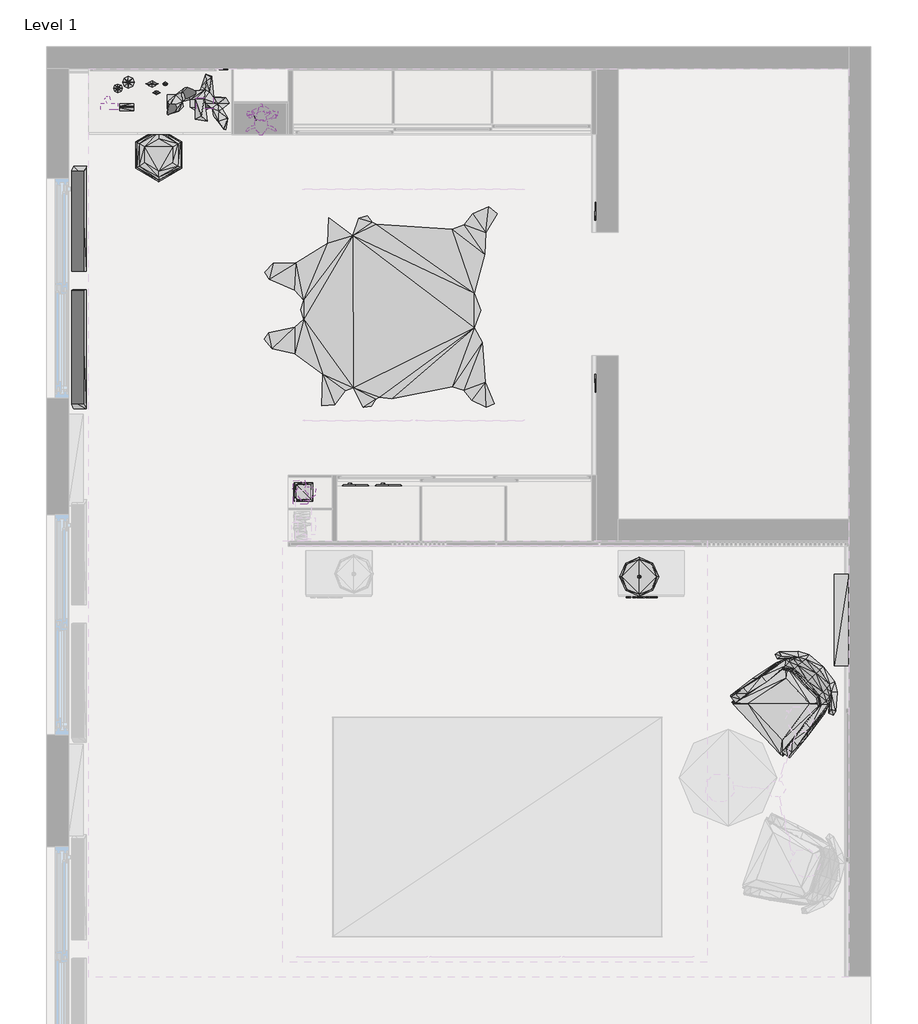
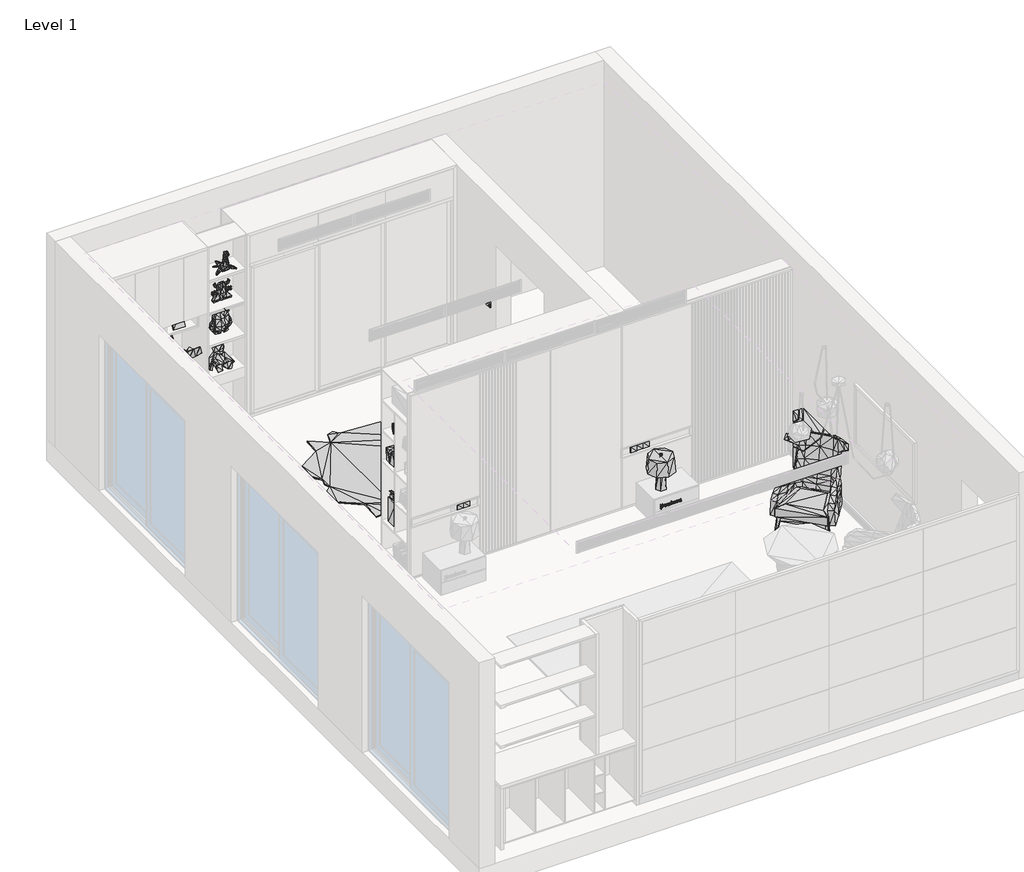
# One storey, part 3 of 3: 41 geographic elements, 1 proxy.
"""IFC4 building model written with IfcOpenShell, lengths in millimetres."""

from ifc_helpers import new_model, si_unit, frame, origin, place, context, project, spatial, polyline, outline, extrude, transform, mapped, element, save
from components import geographic_element_4468c854, geographic_element_3b733e86, geographic_element_47339385, geographic_element_347349cb, geographic_element_06c4260c, geographic_element_9074d599, geographic_element_8ae85c0b, geographic_element_082f936b, geographic_element_e62986f0, enscape_assetdefinition_armchair_14_enscape_assetdefinition_c5dd8c47, enscape_assetdefinition_books_10_1_enscape_assetdefinition_3c0ef03e, enscape_assetdefinition_creme_tube_02_1_enscape_099a7565, enscape_assetdefinition_creme_tube_03_1_enscape_79aa0b1a, enscape_assetdefinition_creme_tube_1_enscape_assetdefinition_85d8d02e, enscape_assetdefinition_curtain_09_1_enscape_assetdefinition_daeb34b5, enscape_assetdefinition_heater_1_enscape_assetdefinition_d009f5ff, enscape_assetdefinition_heater_enscape_assetdefinition_ceba5591, enscape_assetdefinition_interior_plant_90_1_enscape_fa028396, enscape_assetdefinition_light_switch_02_1_enscape_37d4c2cf, enscape_assetdefinition_photo_frame_1_enscape_5837e575, enscape_assetdefinition_picture_frame_portrait_1_enscape_684294eb, enscape_assetdefinition_pouf_11_1_enscape_assetdefinition_35691895, enscape_assetdefinition_power_socket_1_enscape_57b8c8f3, enscape_assetdefinition_storage_box_03_enscape_1ab63e7b, enscape_assetdefinition_storage_box_06_1_enscape_998c8187, enscape_assetdefinition_storage_glass_02_1_enscape_ec1b0890, enscape_assetdefinition_storage_glass_1_enscape_05d8ce10, enscape_assetdefinition_table_lamp_enscape_assetdefinition_93c3381e, enscape_assetdefinition_trolley_case_02_enscape_eeb5b25c, enscape_assetdefinition_trolley_case_enscape_assetdefinition_97d0b9c1

model = new_model("IFC4")

# Units and contexts
model_context = context("Model", 3, world=origin())
ifc_project = project(units=[si_unit("LENGTHUNIT", "METRE", prefix="MILLI")], contexts=[model_context])

# Site, building, storey
site = spatial("IfcSite", under=ifc_project)
building = spatial("IfcBuilding", under=site)
storey = spatial("IfcBuildingStorey", under=building, Name="Level 1", Elevation=0.0)

# Proxy
placement = place(None, origin())
element("IfcBuildingElementProxy", 1, Name="600mm Arial", ObjectType="600mm Arial", at=placement, inside=storey, context=model_context, shape_type="SweptSolid", body=[
    extrude(outline(polyline([(223.461173, 483.4438142), (256.5468074, 483.4438142), (266.3688705, 473.5316404), (261.5329312, 467.0136353), (257.8684306, 461.8773271), (256.4717152, 457.4919411), (261.3376914, 455.0739715), (263.7706795, 452.5809096), (265.0472473, 450.0127555), (267.5703461, 444.8914657), (262.9897203, 449.457073), (260.7144259, 450.636021), (258.5592791, 451.7248582), (245.2529367, 451.5596553), (245.2529367, 447.5046752), (242.594672, 444.9965948), (236.4971833, 444.9965948), (239.5459276, 447.9402101), (239.5459276, 451.7248582), (221.7340518, 451.7248582), (215.125936, 441.7225738), (218.4299939, 451.7248582), (199.3265318, 451.7248582), (205.0335409, 457.4919411), (253.7533766, 457.4919411), (257.6731908, 463.3341162), (207.5716581, 464.3854074), (218.6252337, 464.3854074), (218.6252337, 468.4704245), (216.1922456, 473.5016035), (221.1483324, 478.6829671), (223.461173, 483.4438142)]), holes=[polyline([(249.9837469, 477.6767313), (247.8811646, 473.2913453), (247.8811646, 468.7707934), (249.9837469, 464.3854074), (258.6644082, 464.3854074), (260.7369536, 467.1938566), (260.7369536, 470.8133019), (254.0988009, 477.6767313), (249.9837469, 477.6767313)]), polyline([(236.7224599, 477.6767313), (238.7349316, 473.5616773), (238.7349316, 468.5004613), (236.7224599, 464.3854074), (249.3529722, 464.3854074), (247.3855559, 468.5004613), (247.3855559, 473.5616773), (249.3529722, 477.6767313), (236.7224599, 477.6767313)]), polyline([(222.5150109, 477.6767313), (223.6714312, 474.0948321), (224.6626486, 471.0385786), (224.6626486, 464.2202045), (235.4158552, 464.2202045), (237.5184375, 468.6656642), (237.5184375, 473.2312715), (235.4158552, 477.6767313), (222.5150109, 477.6767313)])]), frame((0.0, 1232.5768874, 0.0), z_axis=(0.0, 1.0, 0.0), x_axis=(0.0, 0.0, 1.0)), (0.0, 0.0, 1.0), 10.0),
    extrude(outline(polyline([(222.4399187, 529.1899978), (222.4399187, 525.7808108), (224.4373719, 523.8133945), (242.459506, 523.8133945), (244.9675863, 526.3364933), (250.2690974, 520.929853), (247.7309802, 518.2415514), (246.4318847, 515.7635079), (245.4181396, 511.7986384), (247.7309802, 507.2931049), (250.2690974, 504.6348401), (244.9675863, 499.2582368), (238.0591016, 506.2267953), (235.6936965, 503.8463718), (233.7488078, 501.8564278), (231.2782736, 500.6098969), (228.9729423, 499.4534766), (224.0769292, 499.4534766), (219.2259715, 501.9165016), (216.6878542, 507.0978651), (221.4487013, 511.8587122), (223.5062283, 518.0463116), (221.7340518, 518.0463116), (216.6277805, 523.2877489), (222.4399187, 529.1899978)]), holes=[polyline([(224.5274826, 518.0463116), (222.3347896, 511.5433249), (222.3347896, 509.4407426), (224.5274826, 505.0253197), (228.8978501, 502.8626636), (233.2081438, 502.8626636), (237.3231977, 506.9777176), (233.7938632, 511.9938782), (242.1441186, 503.5685306), (242.1441186, 507.0377914), (243.1803913, 510.1916648), (244.0965165, 512.729782), (242.3093215, 518.0463116), (224.5274826, 518.0463116)])]), frame((0.0, 1232.5768874, 0.0), z_axis=(0.0, 1.0, 0.0), x_axis=(0.0, 0.0, 1.0)), (0.0, 0.0, 1.0), 10.0),
    extrude(outline(polyline([(245.4782134, 571.4819391), (245.4782134, 567.0514978), (247.4756666, 563.1467021), (250.2690974, 560.0529024), (247.7309802, 557.439693), (246.9199841, 555.9528669), (245.4181396, 553.0242701), (244.149081, 549.4874263), (243.3606127, 546.8817261), (245.1628261, 546.8817261), (250.2690974, 541.6402888), (244.4269223, 535.7380399), (244.4269223, 539.1322084), (242.459506, 541.1146432), (224.5575194, 541.1146432), (221.3886275, 534.731804), (221.3886275, 539.1922822), (219.3911744, 543.2172255), (216.6277805, 546.3560805), (222.1095129, 551.9429421), (224.6326117, 546.8817261), (242.4745244, 546.8817261), (244.6371805, 553.189473), (244.6371805, 555.2319815), (242.5345982, 559.3770724), (221.7791071, 559.3770724), (216.6277805, 564.5884728), (222.4399187, 570.5207586), (222.4399187, 567.1115716), (224.4373719, 565.1441553), (242.3393584, 565.1441553), (245.4782134, 571.4819391)])), frame((0.0, 1232.5768874, 0.0), z_axis=(0.0, 1.0, 0.0), x_axis=(0.0, 0.0, 1.0)), (0.0, 0.0, 1.0), 10.0),
    extrude(outline(polyline([(221.3435722, 607.4360966), (245.2228998, 607.4360966), (259.1600169, 593.5890902), (266.6091656, 591.0960283), (261.2475807, 583.0761787), (249.7584703, 594.4901969), (247.791054, 590.6154381), (246.1840803, 585.8395726), (245.4031212, 583.4065845), (224.5274826, 583.4065845), (221.3435722, 577.0237453), (221.3435722, 583.797064), (219.1058239, 588.2124869), (216.6277805, 590.6755119), (218.0470235, 593.5440349), (219.1058239, 595.6165803), (221.3435722, 602.3748806), (221.3435722, 607.4360966)]), holes=[polyline([(222.1996236, 601.6690137), (220.0670044, 595.5414881), (222.2596974, 593.4689427), (223.528756, 591.0735007), (224.4674088, 589.1736674), (244.7423096, 589.1736674), (248.9775111, 595.3612667), (242.5045613, 601.6690137), (222.1996236, 601.6690137)])]), frame((0.0, 1232.5768874, 0.0), z_axis=(0.0, 1.0, 0.0), x_axis=(0.0, 0.0, 1.0)), (0.0, 0.0, 1.0), 10.0),
    extrude(outline(polyline([(245.5232687, 653.1822802), (245.5232687, 646.4239799), (247.791054, 642.038594), (249.0450941, 640.7695354), (250.2690974, 639.5455321), (248.8198174, 636.6920275), (247.791054, 634.6345006), (245.5232687, 627.8762003), (245.5232687, 622.8149843), (224.5274826, 622.8149843), (221.3435722, 616.4321451), (221.3435722, 623.2054639), (219.1058239, 627.6208867), (216.6277805, 630.0839117), (218.0470235, 632.9524347), (219.1058239, 635.0249801), (221.3435722, 641.7832804), (221.3435722, 646.8444964), (242.3693953, 646.8444964), (245.5232687, 653.1822802)]), holes=[polyline([(222.1996236, 641.0774135), (220.0670044, 634.9498879), (222.2596974, 632.8773425), (223.528756, 630.4819005), (224.4674088, 628.5820672), (244.6071436, 628.5820672), (244.5470698, 636.7521013), (243.2780112, 639.1475433), (242.3693953, 641.0774135), (222.1996236, 641.0774135)])]), frame((0.0, 1232.5768874, 0.0), z_axis=(0.0, 1.0, 0.0), x_axis=(0.0, 0.0, 1.0)), (0.0, 0.0, 1.0), 10.0),
    extrude(outline(polyline([(245.4782134, 691.1789462), (245.4782134, 686.7485049), (247.7309802, 682.2730083), (248.9850203, 680.9964404), (250.2090236, 679.7799464), (245.6133794, 670.4835289), (250.2690974, 665.6325711), (244.4269223, 659.7303222), (244.4269223, 663.1244908), (242.459506, 665.1069256), (224.5575194, 665.1069256), (221.3886275, 658.7240864), (221.3886275, 663.1845646), (219.3911744, 667.2095079), (216.6277805, 670.3483629), (220.2922811, 675.1843022), (222.4399187, 679.5546697), (222.4399187, 675.1242284), (224.5575194, 670.8740085), (244.6071436, 670.8740085), (246.6045968, 674.8538964), (242.1140817, 679.4195037), (242.1140817, 684.4056275), (245.4782134, 691.1789462)])), frame((0.0, 1232.5768874, 0.0), z_axis=(0.0, 1.0, 0.0), x_axis=(0.0, 0.0, 1.0)), (0.0, 0.0, 1.0), 10.0),
    extrude(outline(polyline([(222.4399187, 725.2708165), (222.4399187, 721.8616294), (224.4373719, 719.8942131), (242.459506, 719.8942131), (244.9675863, 722.4173119), (250.2690974, 717.0106717), (247.7309802, 714.32237), (246.4318847, 711.8443266), (245.4181396, 707.8794571), (247.7309802, 703.3739236), (250.2690974, 700.7156588), (244.9675863, 695.3390555), (238.0591016, 702.307614), (235.6936965, 699.9271904), (233.7488078, 697.9372465), (231.2782736, 696.6907155), (228.9729423, 695.5342953), (224.0769292, 695.5342953), (219.2259715, 697.9973202), (216.6878542, 703.1786838), (221.4487013, 707.9395309), (223.5062283, 714.1271302), (221.7340518, 714.1271302), (216.6277805, 719.3685676), (222.4399187, 725.2708165)]), holes=[polyline([(224.5274826, 714.1271302), (222.3347896, 707.6241435), (222.3347896, 705.5215612), (224.5274826, 701.1061384), (228.8978501, 698.9434823), (233.2081438, 698.9434823), (237.3231977, 703.0585362), (233.7938632, 708.0746969), (242.1441186, 699.6493492), (242.1441186, 703.11861), (243.1803913, 706.2724835), (244.0965165, 708.8106007), (242.3093215, 714.1271302), (224.5274826, 714.1271302)])]), frame((0.0, 1232.5768874, 0.0), z_axis=(0.0, 1.0, 0.0), x_axis=(0.0, 0.0, 1.0)), (0.0, 0.0, 1.0), 10.0),
])

# Geographic elements
geographic_element_shape = geographic_element_4468c854(model_context)
element("IfcGeographicElement", 2, ObjectType="Enscape AssetDefinition - Calendar 1 : Enscape AssetDefinition - Calendar 1", at=placement, inside=storey, context=model_context, shape_type="MappedRepresentation", body=[
    mapped(geographic_element_shape, transform((-4102.4476811, 5693.6776397, 740.0), x_axis=(1.0, 0.0, 0.0), y_axis=(0.0, 1.0, 0.0), z_axis=(0.0, 0.0, 1.0))),
])
geographic_element_2_shape = geographic_element_3b733e86(model_context)
element("IfcGeographicElement", 3, ObjectType="Enscape AssetDefinition - Candle Lantern 1 : Enscape AssetDefinition - Candle Lantern 1", at=placement, inside=storey, context=model_context, shape_type="MappedRepresentation", body=[
    mapped(geographic_element_2_shape, transform((-2495.6250979, 2193.2154548, 463.9), x_axis=(0.0, 1.0, 0.0), y_axis=(-1.0, 0.0, 0.0), z_axis=(0.0, 0.0, 1.0))),
])
geographic_element_3_shape = geographic_element_47339385(model_context)
element("IfcGeographicElement", 4, ObjectType="Enscape AssetDefinition - Candle Tray 03 1 : Enscape AssetDefinition - Candle Tray 03 1", at=placement, inside=storey, context=model_context, shape_type="MappedRepresentation", body=[
    mapped(geographic_element_3_shape, transform((-2477.3095983, 2195.249955, 1735.5), x_axis=(1.0, 0.0, 0.0), y_axis=(0.0, 1.0, 0.0), z_axis=(0.0, 0.0, 1.0))),
])
geographic_element_4_shape = geographic_element_347349cb(model_context)
element("IfcGeographicElement", 5, ObjectType="Enscape AssetDefinition - Garbage Can 06 1 : Enscape AssetDefinition - Garbage Can 06 1", at=placement, inside=storey, context=model_context, shape_type="MappedRepresentation", body=[
    mapped(geographic_element_4_shape, transform((-3432.9742609, 5624.0958895, 0.0), x_axis=(1.0, 0.0, 0.0), y_axis=(0.0, 1.0, 0.0), z_axis=(0.0, 0.0, 1.0))),
])
geographic_element_5_shape = geographic_element_06c4260c(model_context)
element("IfcGeographicElement", 6, ObjectType="Enscape AssetDefinition - Plushy 1 : Enscape AssetDefinition - Plushy 1", at=placement, inside=storey, context=model_context, shape_type="MappedRepresentation", body=[
    mapped(geographic_element_5_shape, transform((-2892.57126, 5588.6947964, 740.0), x_axis=(1.0, 0.0, 0.0), y_axis=(0.0, 1.0, 0.0), z_axis=(0.0, 0.0, 1.0))),
])
geographic_element_6_shape = geographic_element_9074d599(model_context)
element("IfcGeographicElement", 7, ObjectType="Enscape AssetDefinition - Plushy 02 1 : Enscape AssetDefinition - Plushy 02 1", at=placement, inside=storey, context=model_context, shape_type="MappedRepresentation", body=[
    mapped(geographic_element_6_shape, transform((-2867.57126, 5614.5768874, 1656.3), x_axis=(1.0, 0.0, 0.0), y_axis=(0.0, 1.0, 0.0), z_axis=(0.0, 0.0, 1.0))),
])
geographic_element_7_shape = geographic_element_8ae85c0b(model_context)
element("IfcGeographicElement", 8, ObjectType="Enscape AssetDefinition - Plushy 03 1 : Enscape AssetDefinition - Plushy 03 1", at=placement, inside=storey, context=model_context, shape_type="MappedRepresentation", body=[
    mapped(geographic_element_7_shape, transform((-2867.57126, 5634.5768874, 1201.0), x_axis=(1.0, 0.0, 0.0), y_axis=(0.0, 1.0, 0.0), z_axis=(0.0, 0.0, 1.0))),
])
geographic_element_8_shape = geographic_element_082f936b(model_context)
element("IfcGeographicElement", 9, ObjectType="Enscape AssetDefinition - Plushy 05 1 : Enscape AssetDefinition - Plushy 05 1", at=placement, inside=storey, context=model_context, shape_type="MappedRepresentation", body=[
    mapped(geographic_element_8_shape, transform((-2880.5403399, 5588.6947964, 2123.8), x_axis=(0.0, -1.0, 0.0), y_axis=(1.0, 0.0, 0.0), z_axis=(0.0, 0.0, 1.0))),
])
geographic_element_9_shape = geographic_element_e62986f0(model_context)
element("IfcGeographicElement", 10, ObjectType="Enscape AssetDefinition - Rug 11, Cowhide 1 : Enscape AssetDefinition - Rug 11, Cowhide 1", at=placement, inside=storey, context=model_context, shape_type="MappedRepresentation", body=[
    mapped(geographic_element_9_shape, transform((-1732.57126, 3844.5768874, 0.0), x_axis=(0.0, 1.0, 0.0), y_axis=(-1.0, 0.0, 0.0), z_axis=(0.0, 0.0, 1.0))),
])
enscape_assetdefinition_armchair_14_enscape_assetdefinition_shape = enscape_assetdefinition_armchair_14_enscape_assetdefinition_c5dd8c47(model_context)
element("IfcGeographicElement", 11, ObjectType="Enscape AssetDefinition - Armchair 14 : Enscape AssetDefinition - Armchair 14", at=placement, inside=storey, context=model_context, shape_type="MappedRepresentation", body=[
    mapped(enscape_assetdefinition_armchair_14_enscape_assetdefinition_shape, transform((1924.4987293, 310.8025044, 0.0), x_axis=(0.6875628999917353, -0.7261248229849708, 0.0), y_axis=(0.7261248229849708, 0.6875628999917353, 0.0), z_axis=(0.0, 0.0, 1.0))),
])
enscape_assetdefinition_books_10_1_enscape_assetdefinition_shape = enscape_assetdefinition_books_10_1_enscape_assetdefinition_3c0ef03e(model_context)
element("IfcGeographicElement", 12, ObjectType="Enscape AssetDefinition - Books 10 1 : Enscape AssetDefinition - Books 10 1", at=placement, inside=storey, context=model_context, shape_type="MappedRepresentation", body=[
    mapped(enscape_assetdefinition_books_10_1_enscape_assetdefinition_shape, transform((-2518.4885996, 2188.403955, 1312.5), x_axis=(0.0, -1.0, 0.0), y_axis=(1.0, 0.0, 0.0), z_axis=(0.0, 0.0, 1.0))),
])
enscape_assetdefinition_creme_tube_02_1_enscape_shape = enscape_assetdefinition_creme_tube_02_1_enscape_099a7565(model_context)
element("IfcGeographicElement", 13, ObjectType="Enscape AssetDefinition - Creme Tube 02 1 : Enscape AssetDefinition - Creme Tube 02 1", at=placement, inside=storey, context=model_context, shape_type="MappedRepresentation", body=[
    mapped(enscape_assetdefinition_creme_tube_02_1_enscape_shape, transform((-3832.57126, 5824.5768874, 740.0), x_axis=(1.0, 0.0, 0.0), y_axis=(0.0, 1.0, 0.0), z_axis=(0.0, 0.0, 1.0))),
])
enscape_assetdefinition_creme_tube_03_1_enscape_shape = enscape_assetdefinition_creme_tube_03_1_enscape_79aa0b1a(model_context)
element("IfcGeographicElement", 14, ObjectType="Enscape AssetDefinition - Creme Tube 03 1 : Enscape AssetDefinition - Creme Tube 03 1", at=placement, inside=storey, context=model_context, shape_type="MappedRepresentation", body=[
    mapped(enscape_assetdefinition_creme_tube_03_1_enscape_shape, transform((-3872.57126, 5904.5768874, 740.0), x_axis=(1.0, 0.0, 0.0), y_axis=(0.0, 1.0, 0.0), z_axis=(0.0, 0.0, 1.0))),
])
enscape_assetdefinition_creme_tube_1_enscape_assetdefinition_shape = enscape_assetdefinition_creme_tube_1_enscape_assetdefinition_85d8d02e(model_context)
element("IfcGeographicElement", 15, ObjectType="Enscape AssetDefinition - Creme Tube 1 : Enscape AssetDefinition - Creme Tube 1", at=placement, inside=storey, context=model_context, shape_type="MappedRepresentation", body=[
    mapped(enscape_assetdefinition_creme_tube_1_enscape_assetdefinition_shape, transform((-3752.57126, 5904.5768874, 740.0), x_axis=(1.0, 0.0, 0.0), y_axis=(0.0, 1.0, 0.0), z_axis=(0.0, 0.0, 1.0))),
])
enscape_assetdefinition_curtain_09_1_enscape_assetdefinition_shape = enscape_assetdefinition_curtain_09_1_enscape_assetdefinition_daeb34b5(model_context)
element("IfcGeographicElement", 16, ObjectType="Enscape AssetDefinition - Curtain 09 1 : Enscape AssetDefinition - Curtain 09 1", at=placement, inside=storey, context=model_context, shape_type="MappedRepresentation", body=[
    mapped(enscape_assetdefinition_curtain_09_1_enscape_assetdefinition_shape, transform((-4632.57126, 4044.5768874, 0.0), x_axis=(0.0, 1.0, 0.0), y_axis=(-1.0, 0.0, 0.0), z_axis=(0.0, 0.0, 1.0))),
])
enscape_assetdefinition_heater_1_enscape_assetdefinition_shape = enscape_assetdefinition_heater_1_enscape_assetdefinition_d009f5ff(model_context)
element("IfcGeographicElement", 17, ObjectType="Enscape AssetDefinition - Heater 1 : Enscape AssetDefinition - Heater 1", at=placement, inside=storey, context=model_context, shape_type="MappedRepresentation", body=[
    mapped(enscape_assetdefinition_heater_1_enscape_assetdefinition_shape, transform((2467.42874, 1024.5768874, 0.0), x_axis=(0.0, -1.0, 0.0), y_axis=(1.0, 0.0, 0.0), z_axis=(0.0, 0.0, 1.0))),
])
enscape_assetdefinition_heater_enscape_assetdefinition_shape = enscape_assetdefinition_heater_enscape_assetdefinition_ceba5591(model_context)
element("IfcGeographicElement", 18, ObjectType="Enscape AssetDefinition - Heater : Enscape AssetDefinition - Heater", at=placement, inside=storey, context=model_context, shape_type="MappedRepresentation", body=[
    mapped(enscape_assetdefinition_heater_enscape_assetdefinition_shape, transform((2467.42874, 1024.5768874, 0.0), x_axis=(0.0, -1.0, 0.0), y_axis=(1.0, 0.0, 0.0), z_axis=(0.0, 0.0, 1.0))),
])
enscape_assetdefinition_interior_plant_90_1_enscape_shape = enscape_assetdefinition_interior_plant_90_1_enscape_fa028396(model_context)
element("IfcGeographicElement", 19, ObjectType="Enscape AssetDefinition - Interior Plant 90 1 : Enscape AssetDefinition - Interior Plant 90 1", at=placement, inside=storey, context=model_context, shape_type="MappedRepresentation", body=[
    mapped(enscape_assetdefinition_interior_plant_90_1_enscape_shape, transform((-3432.9742609, 5744.5768874, 740.0), x_axis=(1.0, 0.0, 0.0), y_axis=(0.0, 1.0, 0.0), z_axis=(0.0, 0.0, 1.0))),
])
enscape_assetdefinition_light_switch_02_1_enscape_shape = enscape_assetdefinition_light_switch_02_1_enscape_37d4c2cf(model_context)
element("IfcGeographicElement", 20, ObjectType="Enscape AssetDefinition - Light Switch 02 1 : Enscape AssetDefinition - Light Switch 02 1", at=placement, inside=storey, context=model_context, shape_type="MappedRepresentation", body=[
    mapped(enscape_assetdefinition_light_switch_02_1_enscape_shape, transform((-3222.57126, 6044.5768874, 1100.0), x_axis=(1.0, 0.0, 0.0), y_axis=(0.0, 1.0, 0.0), z_axis=(0.0, 0.0, 1.0))),
])
element("IfcGeographicElement", 21, ObjectType="Enscape AssetDefinition - Light Switch 02 1 : Enscape AssetDefinition - Light Switch 02 1", at=placement, inside=storey, context=model_context, shape_type="MappedRepresentation", body=[
    mapped(enscape_assetdefinition_light_switch_02_1_enscape_shape, transform((-1851.958982, 1728.5768874, 785.0), x_axis=(1.0, 0.0, 0.0), y_axis=(0.0, 1.0, 0.0), z_axis=(0.0, 0.0, 1.0))),
])
element("IfcGeographicElement", 22, ObjectType="Enscape AssetDefinition - Light Switch 02 1 : Enscape AssetDefinition - Light Switch 02 1", at=placement, inside=storey, context=model_context, shape_type="MappedRepresentation", body=[
    mapped(enscape_assetdefinition_light_switch_02_1_enscape_shape, transform((367.42874, 1728.5768874, 785.0), x_axis=(1.0, 0.0, 0.0), y_axis=(0.0, 1.0, 0.0), z_axis=(0.0, 0.0, 1.0))),
])
element("IfcGeographicElement", 23, ObjectType="Enscape AssetDefinition - Light Switch 02 1 : Enscape AssetDefinition - Light Switch 02 1", at=placement, inside=storey, context=model_context, shape_type="MappedRepresentation", body=[
    mapped(enscape_assetdefinition_light_switch_02_1_enscape_shape, transform((167.42874, 3224.5768874, 1100.0), x_axis=(0.0, -1.0, 0.0), y_axis=(1.0, 0.0, 0.0), z_axis=(0.0, 0.0, 1.0))),
])
element("IfcGeographicElement", 24, ObjectType="Enscape AssetDefinition - Light Switch 02 1 : Enscape AssetDefinition - Light Switch 02 1", at=placement, inside=storey, context=model_context, shape_type="MappedRepresentation", body=[
    mapped(enscape_assetdefinition_light_switch_02_1_enscape_shape, transform((167.42874, 4704.5768874, 1100.0), x_axis=(0.0, -1.0, 0.0), y_axis=(1.0, 0.0, 0.0), z_axis=(0.0, 0.0, 1.0))),
])
enscape_assetdefinition_photo_frame_1_enscape_shape = enscape_assetdefinition_photo_frame_1_enscape_5837e575(model_context)
element("IfcGeographicElement", 25, ObjectType="Enscape AssetDefinition - Photo Frame 1 : Enscape AssetDefinition - Photo Frame 1", at=placement, inside=storey, context=model_context, shape_type="MappedRepresentation", body=[
    mapped(enscape_assetdefinition_photo_frame_1_enscape_shape, transform((-4278.4560634, 5672.5537611, 1392.5), x_axis=(1.0, 0.0, 0.0), y_axis=(0.0, 1.0, 0.0), z_axis=(0.0, 0.0, 1.0))),
])
enscape_assetdefinition_picture_frame_portrait_1_enscape_shape = enscape_assetdefinition_picture_frame_portrait_1_enscape_684294eb(model_context)
element("IfcGeographicElement", 26, ObjectType="Enscape AssetDefinition - Picture Frame Portrait 1 : Enscape AssetDefinition - Picture Frame Portrait 1", at=placement, inside=storey, context=model_context, shape_type="MappedRepresentation", body=[
    mapped(enscape_assetdefinition_picture_frame_portrait_1_enscape_shape, transform((-3392.57126, 5763.3268874, 1392.5), x_axis=(0.0, -1.0, 0.0), y_axis=(1.0, 0.0, 0.0), z_axis=(0.0, 0.0, 1.0))),
])
enscape_assetdefinition_pouf_11_1_enscape_assetdefinition_shape = enscape_assetdefinition_pouf_11_1_enscape_assetdefinition_35691895(model_context)
element("IfcGeographicElement", 27, ObjectType="Enscape AssetDefinition - Pouf 11 1 : Enscape AssetDefinition - Pouf 11 1", at=placement, inside=storey, context=model_context, shape_type="MappedRepresentation", body=[
    mapped(enscape_assetdefinition_pouf_11_1_enscape_assetdefinition_shape, transform((-3812.57126, 5259.5768874, 0.0), x_axis=(1.0, 0.0, 0.0), y_axis=(0.0, 1.0, 0.0), z_axis=(0.0, 0.0, 1.0))),
])
enscape_assetdefinition_power_socket_1_enscape_shape = enscape_assetdefinition_power_socket_1_enscape_57b8c8f3(model_context)
element("IfcGeographicElement", 28, ObjectType="Enscape AssetDefinition - Power Socket 1 : Enscape AssetDefinition - Power Socket 1", at=placement, inside=storey, context=model_context, shape_type="MappedRepresentation", body=[
    mapped(enscape_assetdefinition_power_socket_1_enscape_shape, transform((167.42874, 4789.5768874, 300.0), x_axis=(0.0, -1.0, 0.0), y_axis=(1.0, 0.0, 0.0), z_axis=(0.0, 0.0, 1.0))),
])
element("IfcGeographicElement", 29, ObjectType="Enscape AssetDefinition - Power Socket 1 : Enscape AssetDefinition - Power Socket 1", at=placement, inside=storey, context=model_context, shape_type="MappedRepresentation", body=[
    mapped(enscape_assetdefinition_power_socket_1_enscape_shape, transform((167.42874, 4704.5768874, 300.0), x_axis=(0.0, -1.0, 0.0), y_axis=(1.0, 0.0, 0.0), z_axis=(0.0, 0.0, 1.0))),
])
element("IfcGeographicElement", 30, ObjectType="Enscape AssetDefinition - Power Socket 1 : Enscape AssetDefinition - Power Socket 1", at=placement, inside=storey, context=model_context, shape_type="MappedRepresentation", body=[
    mapped(enscape_assetdefinition_power_socket_1_enscape_shape, transform((167.42874, 3139.5768874, 300.0), x_axis=(0.0, -1.0, 0.0), y_axis=(1.0, 0.0, 0.0), z_axis=(0.0, 0.0, 1.0))),
])
element("IfcGeographicElement", 31, ObjectType="Enscape AssetDefinition - Power Socket 1 : Enscape AssetDefinition - Power Socket 1", at=placement, inside=storey, context=model_context, shape_type="MappedRepresentation", body=[
    mapped(enscape_assetdefinition_power_socket_1_enscape_shape, transform((167.42874, 3224.5768874, 300.0), x_axis=(0.0, -1.0, 0.0), y_axis=(1.0, 0.0, 0.0), z_axis=(0.0, 0.0, 1.0))),
])
element("IfcGeographicElement", 32, ObjectType="Enscape AssetDefinition - Power Socket 1 : Enscape AssetDefinition - Power Socket 1", at=placement, inside=storey, context=model_context, shape_type="MappedRepresentation", body=[
    mapped(enscape_assetdefinition_power_socket_1_enscape_shape, transform((-1939.2189101, 1728.5768874, 785.0), x_axis=(1.0, 0.0, 0.0), y_axis=(0.0, 1.0, 0.0), z_axis=(0.0, 0.0, 1.0))),
])
element("IfcGeographicElement", 33, ObjectType="Enscape AssetDefinition - Power Socket 1 : Enscape AssetDefinition - Power Socket 1", at=placement, inside=storey, context=model_context, shape_type="MappedRepresentation", body=[
    mapped(enscape_assetdefinition_power_socket_1_enscape_shape, transform((452.42874, 1728.5768874, 785.0), x_axis=(1.0, 0.0, 0.0), y_axis=(0.0, 1.0, 0.0), z_axis=(0.0, 0.0, 1.0))),
])
element("IfcGeographicElement", 34, ObjectType="Enscape AssetDefinition - Power Socket 1 : Enscape AssetDefinition - Power Socket 1", at=placement, inside=storey, context=model_context, shape_type="MappedRepresentation", body=[
    mapped(enscape_assetdefinition_power_socket_1_enscape_shape, transform((537.42874, 1728.5768874, 785.0), x_axis=(1.0, 0.0, 0.0), y_axis=(0.0, 1.0, 0.0), z_axis=(0.0, 0.0, 1.0))),
])
element("IfcGeographicElement", 35, ObjectType="Enscape AssetDefinition - Power Socket 1 : Enscape AssetDefinition - Power Socket 1", at=placement, inside=storey, context=model_context, shape_type="MappedRepresentation", body=[
    mapped(enscape_assetdefinition_power_socket_1_enscape_shape, transform((-3303.8131297, 6044.5768874, 300.0), x_axis=(1.0, 0.0, 0.0), y_axis=(0.0, 1.0, 0.0), z_axis=(0.0, 0.0, 1.0))),
])
enscape_assetdefinition_storage_box_03_enscape_shape = enscape_assetdefinition_storage_box_03_enscape_1ab63e7b(model_context)
element("IfcGeographicElement", 36, ObjectType="Enscape AssetDefinition - Storage Box 03 : Enscape AssetDefinition - Storage Box 03", at=placement, inside=storey, context=model_context, shape_type="MappedRepresentation", body=[
    mapped(enscape_assetdefinition_storage_box_03_enscape_shape, transform((-1472.57126, 5724.5768874, 0.0), x_axis=(1.0, 0.0, 0.0), y_axis=(0.0, 1.0, 0.0), z_axis=(0.0, 0.0, 1.0))),
])
enscape_assetdefinition_storage_box_06_1_enscape_shape = enscape_assetdefinition_storage_box_06_1_enscape_998c8187(model_context)
element("IfcGeographicElement", 37, ObjectType="Enscape AssetDefinition - Storage Box 06 1 : Enscape AssetDefinition - Storage Box 06 1", at=placement, inside=storey, context=model_context, shape_type="MappedRepresentation", body=[
    mapped(enscape_assetdefinition_storage_box_06_1_enscape_shape, transform((-3672.57126, 5744.5768874, 740.0), x_axis=(1.0, 0.0, 0.0), y_axis=(0.0, 1.0, 0.0), z_axis=(0.0, 0.0, 1.0))),
])
enscape_assetdefinition_storage_glass_02_1_enscape_shape = enscape_assetdefinition_storage_glass_02_1_enscape_ec1b0890(model_context)
element("IfcGeographicElement", 38, ObjectType="Enscape AssetDefinition - Storage Glass 02 1 : Enscape AssetDefinition - Storage Glass 02 1", at=placement, inside=storey, context=model_context, shape_type="MappedRepresentation", body=[
    mapped(enscape_assetdefinition_storage_glass_02_1_enscape_shape, transform((-4182.57126, 5864.5768874, 740.0), x_axis=(1.0, 0.0, 0.0), y_axis=(0.0, 1.0, 0.0), z_axis=(0.0, 0.0, 1.0))),
])
enscape_assetdefinition_storage_glass_1_enscape_shape = enscape_assetdefinition_storage_glass_1_enscape_05d8ce10(model_context)
element("IfcGeographicElement", 39, ObjectType="Enscape AssetDefinition - Storage Glass 1 : Enscape AssetDefinition - Storage Glass 1", at=placement, inside=storey, context=model_context, shape_type="MappedRepresentation", body=[
    mapped(enscape_assetdefinition_storage_glass_1_enscape_shape, transform((-4087.57126, 5919.5768874, 740.0), x_axis=(1.0, 0.0, 0.0), y_axis=(0.0, 1.0, 0.0), z_axis=(0.0, 0.0, 1.0))),
])
enscape_assetdefinition_table_lamp_enscape_assetdefinition_shape = enscape_assetdefinition_table_lamp_enscape_assetdefinition_93c3381e(model_context)
element("IfcGeographicElement", 40, ObjectType="Enscape AssetDefinition - Table Lamp : Enscape AssetDefinition - Table Lamp", at=placement, inside=storey, context=model_context, shape_type="MappedRepresentation", body=[
    mapped(enscape_assetdefinition_table_lamp_enscape_assetdefinition_shape, transform((558.9958382, 1421.3378379, 350.0), x_axis=(1.0, 0.0, 0.0), y_axis=(0.0, 1.0, 0.0), z_axis=(0.0, 0.0, 1.0))),
])
enscape_assetdefinition_trolley_case_02_enscape_shape = enscape_assetdefinition_trolley_case_02_enscape_eeb5b25c(model_context)
element("IfcGeographicElement", 41, ObjectType="Enscape AssetDefinition - Trolley Case 02 : Enscape AssetDefinition - Trolley Case 02", at=placement, inside=storey, context=model_context, shape_type="MappedRepresentation", body=[
    mapped(enscape_assetdefinition_trolley_case_02_enscape_shape, transform((-1732.57126, 2004.5768874, 0.0), x_axis=(0.0, 1.0, 0.0), y_axis=(-1.0, 0.0, 0.0), z_axis=(0.0, 0.0, 1.0))),
])
enscape_assetdefinition_trolley_case_enscape_assetdefinition_shape = enscape_assetdefinition_trolley_case_enscape_assetdefinition_97d0b9c1(model_context)
element("IfcGeographicElement", 42, ObjectType="Enscape AssetDefinition - Trolley Case : Enscape AssetDefinition - Trolley Case", at=placement, inside=storey, context=model_context, shape_type="MappedRepresentation", body=[
    mapped(enscape_assetdefinition_trolley_case_enscape_assetdefinition_shape, transform((-2032.57126, 2004.5768874, 0.0), x_axis=(0.0, 1.0, 0.0), y_axis=(-1.0, 0.0, 0.0), z_axis=(0.0, 0.0, 1.0))),
])

save(model, "model.ifc")
